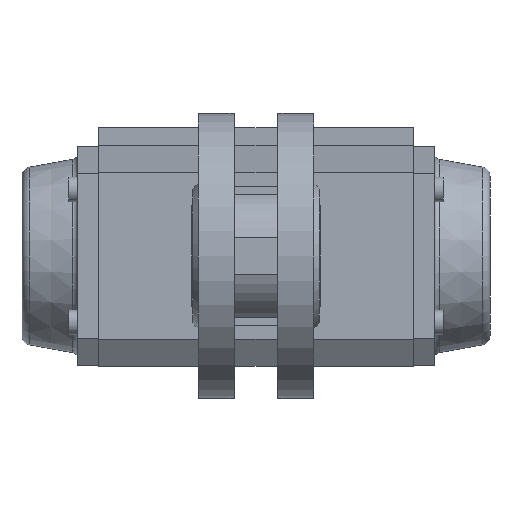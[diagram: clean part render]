
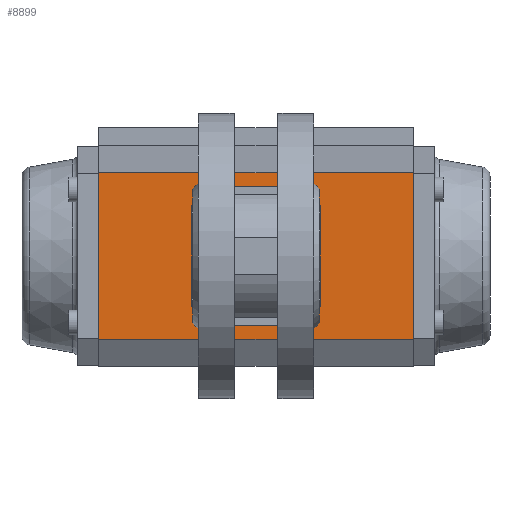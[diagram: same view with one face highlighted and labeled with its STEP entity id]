
A CAD part, front view. The second image highlights one B-rep face of the part: STEP entity #8899.
In plain terms, the highlighted planar face has unit normal (0, -1, 0).
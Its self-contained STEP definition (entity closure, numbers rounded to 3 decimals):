
#400 = CARTESIAN_POINT ( 'NONE',  ( 14.849, -41.5, 14.849 ) ) ;
#401 = DIRECTION ( 'NONE',  ( 0., -1., 0. ) ) ;
#402 = DIRECTION ( 'NONE',  ( 0., 0., -1. ) ) ;
#418 = CARTESIAN_POINT ( 'NONE',  ( 14.849, -41.5, -14.849 ) ) ;
#419 = DIRECTION ( 'NONE',  ( 0., -1., 0. ) ) ;
#420 = DIRECTION ( 'NONE',  ( 0., 0., -1. ) ) ;
#448 = CARTESIAN_POINT ( 'NONE',  ( -14.849, -41.5, -14.849 ) ) ;
#449 = DIRECTION ( 'NONE',  ( 0., -1., 0. ) ) ;
#450 = DIRECTION ( 'NONE',  ( 0., 0., -1. ) ) ;
#466 = CARTESIAN_POINT ( 'NONE',  ( -14.849, -41.5, 14.849 ) ) ;
#467 = DIRECTION ( 'NONE',  ( 0., -1., 0. ) ) ;
#468 = DIRECTION ( 'NONE',  ( 0., 0., -1. ) ) ;
#623 = FACE_BOUND ( 'NONE', #10662, .T. ) ;
#628 = FACE_BOUND ( 'NONE', #10658, .T. ) ;
#629 = FACE_BOUND ( 'NONE', #10657, .T. ) ;
#630 = FACE_OUTER_BOUND ( 'NONE', #10661, .T. ) ;
#631 = PLANE ( 'NONE',  #11819 ) ;
#632 = FACE_BOUND ( 'NONE', #10664, .T. ) ;
#634 = FACE_BOUND ( 'NONE', #10671, .T. ) ;
#635 = CARTESIAN_POINT ( 'NONE',  ( -27.5, -41.5, -52. ) ) ;
#636 = DIRECTION ( 'NONE',  ( 0., -1., 0. ) ) ;
#637 = DIRECTION ( 'NONE',  ( 0., 0., -1. ) ) ;
#3034 = CARTESIAN_POINT ( 'NONE',  ( 0., -41.5, -15. ) ) ;
#3035 = CARTESIAN_POINT ( 'NONE',  ( 0., -41.5, 15. ) ) ;
#3059 = CARTESIAN_POINT ( 'NONE',  ( -14.849, -41.5, 12.749 ) ) ;
#3060 = CARTESIAN_POINT ( 'NONE',  ( -14.849, -41.5, 16.949 ) ) ;
#3064 = CARTESIAN_POINT ( 'NONE',  ( -14.849, -41.5, -16.949 ) ) ;
#3065 = CARTESIAN_POINT ( 'NONE',  ( -14.849, -41.5, -12.749 ) ) ;
#3069 = CARTESIAN_POINT ( 'NONE',  ( 14.849, -41.5, -16.949 ) ) ;
#3070 = CARTESIAN_POINT ( 'NONE',  ( 14.849, -41.5, -12.749 ) ) ;
#3074 = CARTESIAN_POINT ( 'NONE',  ( 14.849, -41.5, 12.749 ) ) ;
#3075 = CARTESIAN_POINT ( 'NONE',  ( 14.849, -41.5, 16.949 ) ) ;
#3230 = CARTESIAN_POINT ( 'NONE',  ( -27.5, -41.5, 52. ) ) ;
#3231 = CARTESIAN_POINT ( 'NONE',  ( 27.5, -41.5, -52. ) ) ;
#3232 = CARTESIAN_POINT ( 'NONE',  ( -27.5, -41.5, -52. ) ) ;
#4029 = CARTESIAN_POINT ( 'NONE',  ( 27.5, -41.5, 52. ) ) ;
#4496 = LINE ( 'NONE', #4509, #6245 ) ;
#4500 = LINE ( 'NONE', #4501, #6246 ) ;
#4501 = CARTESIAN_POINT ( 'NONE',  ( -27.5, -41.5, -52. ) ) ;
#4502 = DIRECTION ( 'NONE',  ( 1., 0., 0. ) ) ;
#4509 = CARTESIAN_POINT ( 'NONE',  ( -27.5, -41.5, -52. ) ) ;
#4510 = DIRECTION ( 'NONE',  ( 0., 0., 1. ) ) ;
#4511 = LINE ( 'NONE', #4512, #6242 ) ;
#4512 = CARTESIAN_POINT ( 'NONE',  ( -27.5, -41.5, 52. ) ) ;
#4513 = DIRECTION ( 'NONE',  ( 1., 0., 0. ) ) ;
#4514 = CARTESIAN_POINT ( 'NONE',  ( 27.5, -41.5, -52. ) ) ;
#4515 = CARTESIAN_POINT ( 'NONE',  ( -14.849, -41.5, 14.849 ) ) ;
#4516 = DIRECTION ( 'NONE',  ( 0., -1., 0. ) ) ;
#4517 = DIRECTION ( 'NONE',  ( 0., 0., -1. ) ) ;
#4518 = LINE ( 'NONE', #4514, #6240 ) ;
#4519 = CARTESIAN_POINT ( 'NONE',  ( 0., -41.5, 0. ) ) ;
#4520 = DIRECTION ( 'NONE',  ( 0., -1., 0. ) ) ;
#4521 = DIRECTION ( 'NONE',  ( 0., 0., -1. ) ) ;
#4522 = DIRECTION ( 'NONE',  ( 0., 0., 1. ) ) ;
#4524 = CARTESIAN_POINT ( 'NONE',  ( -14.849, -41.5, -14.849 ) ) ;
#4525 = DIRECTION ( 'NONE',  ( 0., -1., 0. ) ) ;
#4526 = DIRECTION ( 'NONE',  ( 0., 0., -1. ) ) ;
#4527 = CARTESIAN_POINT ( 'NONE',  ( 14.849, -41.5, -14.849 ) ) ;
#4528 = DIRECTION ( 'NONE',  ( 0., -1., 0. ) ) ;
#4529 = DIRECTION ( 'NONE',  ( 0., 0., -1. ) ) ;
#4532 = CARTESIAN_POINT ( 'NONE',  ( 14.849, -41.5, 14.849 ) ) ;
#4533 = DIRECTION ( 'NONE',  ( 0., -1., 0. ) ) ;
#4534 = DIRECTION ( 'NONE',  ( 0., 0., -1. ) ) ;
#4917 = ORIENTED_EDGE ( 'NONE', *, *, #9324, .T. ) ;
#4918 = ORIENTED_EDGE ( 'NONE', *, *, #9327, .F. ) ;
#4919 = ORIENTED_EDGE ( 'NONE', *, *, #9328, .F. ) ;
#4920 = ORIENTED_EDGE ( 'NONE', *, *, #9331, .T. ) ;
#4921 = ORIENTED_EDGE ( 'NONE', *, *, #10037, .F. ) ;
#4922 = ORIENTED_EDGE ( 'NONE', *, *, #9330, .F. ) ;
#4923 = ORIENTED_EDGE ( 'NONE', *, *, #10002, .F. ) ;
#4924 = ORIENTED_EDGE ( 'NONE', *, *, #9329, .F. ) ;
#4925 = ORIENTED_EDGE ( 'NONE', *, *, #9996, .F. ) ;
#4926 = ORIENTED_EDGE ( 'NONE', *, *, #9332, .F. ) ;
#4927 = ORIENTED_EDGE ( 'NONE', *, *, #9986, .F. ) ;
#4928 = ORIENTED_EDGE ( 'NONE', *, *, #9333, .F. ) ;
#4929 = ORIENTED_EDGE ( 'NONE', *, *, #9980, .F. ) ;
#4930 = ORIENTED_EDGE ( 'NONE', *, *, #9334, .F. ) ;
#6230 = AXIS2_PLACEMENT_3D ( 'NONE', #4532, #4533, #4534 ) ;
#6232 = AXIS2_PLACEMENT_3D ( 'NONE', #4527, #4528, #4529 ) ;
#6234 = AXIS2_PLACEMENT_3D ( 'NONE', #4524, #4525, #4526 ) ;
#6235 = CIRCLE ( 'NONE', #6230, 2.1 ) ;
#6236 = CIRCLE ( 'NONE', #6234, 2.1 ) ;
#6237 = AXIS2_PLACEMENT_3D ( 'NONE', #4519, #4520, #4521 ) ;
#6238 = CIRCLE ( 'NONE', #6232, 2.1 ) ;
#6239 = AXIS2_PLACEMENT_3D ( 'NONE', #4515, #4516, #4517 ) ;
#6240 = VECTOR ( 'NONE', #4522, 1000. ) ;
#6241 = CIRCLE ( 'NONE', #6239, 2.1 ) ;
#6242 = VECTOR ( 'NONE', #4513, 1000. ) ;
#6243 = CIRCLE ( 'NONE', #6237, 15. ) ;
#6245 = VECTOR ( 'NONE', #4510, 1000. ) ;
#6246 = VECTOR ( 'NONE', #4502, 1000. ) ;
#6898 = VERTEX_POINT ( 'NONE', #3034 ) ;
#6899 = VERTEX_POINT ( 'NONE', #3035 ) ;
#7008 = CARTESIAN_POINT ( 'NONE',  ( 0., -41.5, 0. ) ) ;
#7009 = DIRECTION ( 'NONE',  ( 0., -1., 0. ) ) ;
#7010 = DIRECTION ( 'NONE',  ( 0., 0., -1. ) ) ;
#7912 = VERTEX_POINT ( 'NONE', #3059 ) ;
#7913 = VERTEX_POINT ( 'NONE', #3060 ) ;
#7917 = VERTEX_POINT ( 'NONE', #3064 ) ;
#7918 = VERTEX_POINT ( 'NONE', #3065 ) ;
#7922 = VERTEX_POINT ( 'NONE', #3069 ) ;
#7923 = VERTEX_POINT ( 'NONE', #3070 ) ;
#7927 = VERTEX_POINT ( 'NONE', #3074 ) ;
#7928 = VERTEX_POINT ( 'NONE', #3075 ) ;
#8517 = VERTEX_POINT ( 'NONE', #3230 ) ;
#8519 = VERTEX_POINT ( 'NONE', #3231 ) ;
#8520 = VERTEX_POINT ( 'NONE', #3232 ) ;
#8569 = VERTEX_POINT ( 'NONE', #4029 ) ;
#8899 = ADVANCED_FACE ( 'NONE', ( #629, #623, #632, #634, #628, #630 ), #631, .T. ) ;
#9324 = EDGE_CURVE ( 'NONE', #8520, #8519, #4500, .T. ) ;
#9327 = EDGE_CURVE ( 'NONE', #8520, #8517, #4496, .T. ) ;
#9328 = EDGE_CURVE ( 'NONE', #8517, #8569, #4511, .T. ) ;
#9329 = EDGE_CURVE ( 'NONE', #7912, #7913, #6241, .T. ) ;
#9330 = EDGE_CURVE ( 'NONE', #6898, #6899, #6243, .T. ) ;
#9331 = EDGE_CURVE ( 'NONE', #8519, #8569, #4518, .T. ) ;
#9332 = EDGE_CURVE ( 'NONE', #7917, #7918, #6236, .T. ) ;
#9333 = EDGE_CURVE ( 'NONE', #7922, #7923, #6238, .T. ) ;
#9334 = EDGE_CURVE ( 'NONE', #7927, #7928, #6235, .T. ) ;
#9980 = EDGE_CURVE ( 'NONE', #7928, #7927, #13537, .T. ) ;
#9986 = EDGE_CURVE ( 'NONE', #7923, #7922, #13527, .T. ) ;
#9996 = EDGE_CURVE ( 'NONE', #7918, #7917, #13513, .T. ) ;
#10002 = EDGE_CURVE ( 'NONE', #7913, #7912, #13507, .T. ) ;
#10037 = EDGE_CURVE ( 'NONE', #6899, #6898, #13469, .T. ) ;
#10657 = EDGE_LOOP ( 'NONE', ( #4930, #4929 ) ) ;
#10658 = EDGE_LOOP ( 'NONE', ( #4922, #4921 ) ) ;
#10661 = EDGE_LOOP ( 'NONE', ( #4920, #4919, #4918, #4917 ) ) ;
#10662 = EDGE_LOOP ( 'NONE', ( #4928, #4927 ) ) ;
#10664 = EDGE_LOOP ( 'NONE', ( #4926, #4925 ) ) ;
#10671 = EDGE_LOOP ( 'NONE', ( #4924, #4923 ) ) ;
#11819 = AXIS2_PLACEMENT_3D ( 'NONE', #635, #636, #637 ) ;
#13458 = AXIS2_PLACEMENT_3D ( 'NONE', #7008, #7009, #7010 ) ;
#13469 = CIRCLE ( 'NONE', #13458, 15. ) ;
#13503 = AXIS2_PLACEMENT_3D ( 'NONE', #466, #467, #468 ) ;
#13507 = CIRCLE ( 'NONE', #13503, 2.1 ) ;
#13511 = AXIS2_PLACEMENT_3D ( 'NONE', #448, #449, #450 ) ;
#13513 = CIRCLE ( 'NONE', #13511, 2.1 ) ;
#13523 = AXIS2_PLACEMENT_3D ( 'NONE', #418, #419, #420 ) ;
#13527 = CIRCLE ( 'NONE', #13523, 2.1 ) ;
#13531 = AXIS2_PLACEMENT_3D ( 'NONE', #400, #401, #402 ) ;
#13537 = CIRCLE ( 'NONE', #13531, 2.1 ) ;
